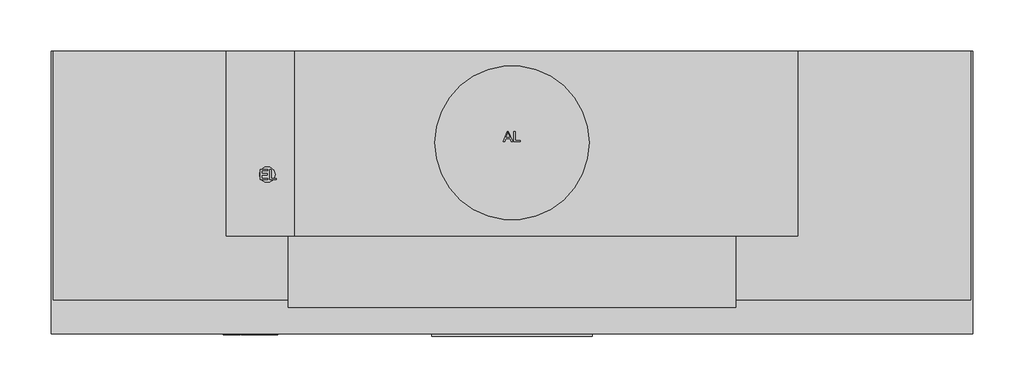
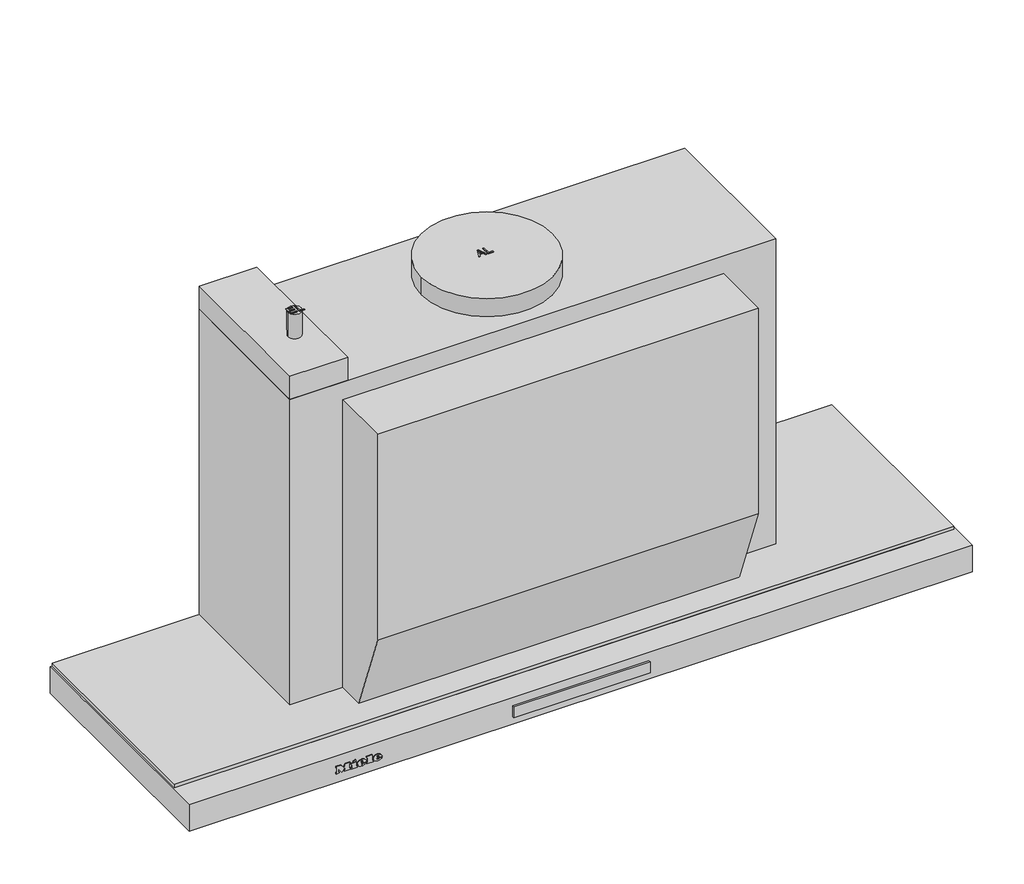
# Not in any storey: 1 proxy.
"""IFC4 building model written with IfcOpenShell, lengths in millimetres."""

import ifcopenshell
import ifcopenshell.guid

model = None  # the IFC model being written
_history = None  # IfcOwnerHistory: only IFC2X3 demands one
_inside = {}  # id of a spatial element -> (the spatial element, [elements in it])
_under = {}  # id of a project, library or spatial element -> (it, [spatial elements below it])
_declared = {}  # id of a project -> (the project, [libraries it declares])
_typed = {}  # id of a type object -> (the type object, [elements of that type])
_made_of = {}  # id of a material, layer set ... -> (it, [elements and type objects made of it])


def new_model(schema):
    """Start an empty IFC model of exactly this schema.

    Asked for "IFC4X3", IfcOpenShell would pick the latest addendum, in which some entities
    have other attributes; the version numbers below select the first issue.
    IFC2X3 requires an IfcOwnerHistory on every rooted entity: one is made here for all.
    """
    global model, _history
    if schema == "IFC4X3":
        model = ifcopenshell.file(schema_version=(4, 3, 0, 0))
    else:
        model = ifcopenshell.file(schema=schema)
    _inside.clear()
    _under.clear()
    _declared.clear()
    _typed.clear()
    _made_of.clear()
    _history = None
    if model.schema == "IFC2X3":
        org = make("IfcOrganization", Name="unknown")
        user = make(
            "IfcPersonAndOrganization",
            ThePerson=make("IfcPerson", FamilyName="unknown"),
            TheOrganization=org,
        )
        app = make(
            "IfcApplication",
            ApplicationDeveloper=org,
            Version="unknown",
            ApplicationFullName="unknown",
            ApplicationIdentifier="unknown",
        )
        _history = make(
            "IfcOwnerHistory",
            OwningUser=user,
            OwningApplication=app,
            ChangeAction="ADDED",
            CreationDate=0,
        )
    return model


def make(cls, **values):
    """One entity of the class cls with the attributes given. An attribute that is None is left unset."""
    return model.create_entity(
        cls, **{name: value for name, value in values.items() if value is not None}
    )


def rooted(cls, **values):
    """An entity with a GlobalId (a new one), such as an element, a storey or a relation."""
    return make(cls, GlobalId=ifcopenshell.guid.new(), OwnerHistory=_history, **values)


def si_unit(unit_type, name, prefix=None):
    """IfcSIUnit, for example si_unit("LENGTHUNIT", "METRE", prefix="MILLI")."""
    return make("IfcSIUnit", UnitType=unit_type, Prefix=prefix, Name=name)


def assignment(units):
    """IfcUnitAssignment: the units of a project."""
    return None if units is None else make("IfcUnitAssignment", Units=units)


def point(xyz):
    """IfcCartesianPoint."""
    return None if xyz is None else make("IfcCartesianPoint", Coordinates=xyz)


def direction(xyz):
    """IfcDirection."""
    return None if xyz is None else make("IfcDirection", DirectionRatios=xyz)


def frame(location, z_axis=None, x_axis=None):
    """IfcAxis2Placement3D, a coordinate frame: its origin and axes. An axis left out is left unset."""
    return make(
        "IfcAxis2Placement3D",
        Location=point(location),
        Axis=direction(z_axis),
        RefDirection=direction(x_axis),
    )


def frame_2d(location, x_axis=None):
    """IfcAxis2Placement2D, a coordinate frame in the plane: its origin and x axis."""
    return make(
        "IfcAxis2Placement2D", Location=point(location), RefDirection=direction(x_axis)
    )


def origin():
    """The frame at (0, 0, 0) with its axes left unset."""
    return frame((0.0, 0.0, 0.0))


def origin_with_axes():
    """The frame at (0, 0, 0) with the z axis (0, 0, 1) and the x axis (1, 0, 0) written out."""
    return frame((0.0, 0.0, 0.0), z_axis=(0.0, 0.0, 1.0), x_axis=(1.0, 0.0, 0.0))


def place(relative_to, where):
    """IfcLocalPlacement: puts the frame where relative to a parent placement (None: the world)."""
    return make(
        "IfcLocalPlacement", PlacementRelTo=relative_to, RelativePlacement=where
    )


def context(
    kind, dimensions, precision=None, world=None, true_north=None, identifier=None
):
    """IfcGeometricRepresentationContext, for example the 3D "Model" context."""
    return make(
        "IfcGeometricRepresentationContext",
        ContextIdentifier=identifier,
        ContextType=kind,
        CoordinateSpaceDimension=dimensions,
        Precision=precision,
        WorldCoordinateSystem=world,
        TrueNorth=true_north,
    )


def project(units=None, contexts=None):
    """IfcProject with its units and contexts."""
    return rooted(
        "IfcProject",
        Name="project",
        RepresentationContexts=contexts,
        UnitsInContext=assignment(units),
    )


def spatial(cls, under=None, at=None, **own):
    """A site, building, storey or space (cls), placed at a placement, below another one or the project."""
    s = rooted(cls, ObjectPlacement=at, **own)
    if under is not None:
        _under.setdefault(under.id(), (under, []))[1].append(s)
    return s


def polyline(points):
    """IfcPolyline through the points."""
    return make("IfcPolyline", Points=[point(p) for p in points])


def circle_curve(where, radius):
    """IfcCircle in the frame where."""
    return make("IfcCircle", Position=where, Radius=radius)


def ellipse_curve(where, semi_axis1, semi_axis2):
    """IfcEllipse in the frame where."""
    return make(
        "IfcEllipse", Position=where, SemiAxis1=semi_axis1, SemiAxis2=semi_axis2
    )


def trimmed(basis, trim1, trim2, sense, master):
    """IfcTrimmedCurve: the piece of a basis curve between two trims."""
    return make(
        "IfcTrimmedCurve",
        BasisCurve=basis,
        Trim1=trim1,
        Trim2=trim2,
        SenseAgreement=sense,
        MasterRepresentation=master,
    )


def segment(curve, same_sense, transition):
    """IfcCompositeCurveSegment."""
    return make(
        "IfcCompositeCurveSegment",
        Transition=transition,
        SameSense=same_sense,
        ParentCurve=curve,
    )


def composite_curve(segments, self_intersect=None):
    """IfcCompositeCurve: segments joined end to end."""
    return make("IfcCompositeCurve", Segments=segments, SelfIntersect=self_intersect)


def outline(outer, holes=None, kind="AREA"):
    """IfcArbitraryClosedProfileDef: a profile drawn as a closed curve; with holes, ...WithVoids."""
    if holes is None:
        return make("IfcArbitraryClosedProfileDef", ProfileType=kind, OuterCurve=outer)
    return make(
        "IfcArbitraryProfileDefWithVoids",
        ProfileType=kind,
        OuterCurve=outer,
        InnerCurves=holes,
    )


def extrude(swept, where, along, depth):
    """IfcExtrudedAreaSolid: the profile swept, set in the frame where, extruded along a direction by depth."""
    return make(
        "IfcExtrudedAreaSolid",
        SweptArea=swept,
        Position=where,
        ExtrudedDirection=direction(along),
        Depth=depth,
    )


def faces_of(points, faces, orient=None, outer=None):
    """IfcFace entities. A face is a list of loops; a loop is a list of indices into points, from 0.

    orient and outer hold one flag for each loop. By default every Orientation is true, the
    first loop of a face is its IfcFaceOuterBound and the others are IfcFaceBound.
    """
    made = []
    for i, loops in enumerate(faces):
        bounds = []
        for j, loop in enumerate(loops):
            is_outer = j == 0 if outer is None else outer[i][j]
            bounds.append(
                make(
                    "IfcFaceOuterBound" if is_outer else "IfcFaceBound",
                    Bound=make("IfcPolyLoop", Polygon=[points[k] for k in loop]),
                    Orientation=True if orient is None else orient[i][j],
                )
            )
        made.append(make("IfcFace", Bounds=bounds))
    return made


def faceted_brep(points, faces, orient=None, outer=None, voids=None):
    """IfcFacetedBrep: a solid bounded by flat faces; with voids (closed shells), ...WithVoids."""
    shared = [point(p) for p in points]
    hull = make("IfcClosedShell", CfsFaces=faces_of(shared, faces, orient, outer))
    if voids is None:
        return make("IfcFacetedBrep", Outer=hull)
    return make(
        "IfcFacetedBrepWithVoids",
        Outer=hull,
        Voids=[
            make(cls, CfsFaces=faces_of(shared, fs, o, b)) for cls, fs, o, b in voids
        ],
    )


def shape(context_of_items, identifier, shape_type, items):
    """IfcShapeRepresentation: the items that make up one representation, for example the "Body"."""
    return make(
        "IfcShapeRepresentation",
        ContextOfItems=context_of_items,
        RepresentationIdentifier=identifier,
        RepresentationType=shape_type,
        Items=items,
    )


def source(mapping_origin, context_of_items, identifier, shape_type, items):
    """IfcRepresentationMap: a shape defined once, which mapped items show again and again."""
    return make(
        "IfcRepresentationMap",
        MappingOrigin=mapping_origin,
        MappedRepresentation=shape(context_of_items, identifier, shape_type, items),
    )


def transform(
    local_origin,
    x_axis=None,
    y_axis=None,
    z_axis=None,
    scale=None,
    scale2=None,
    scale3=None,
    uniform=True,
):
    """IfcCartesianTransformationOperator3D, or its non-uniform kind. x_axis, y_axis, z_axis: its Axis1, 2, 3."""
    if uniform:
        return make(
            "IfcCartesianTransformationOperator3D",
            Axis1=direction(x_axis),
            Axis2=direction(y_axis),
            LocalOrigin=point(local_origin),
            Scale=scale,
            Axis3=direction(z_axis),
        )
    return make(
        "IfcCartesianTransformationOperator3DnonUniform",
        Axis1=direction(x_axis),
        Axis2=direction(y_axis),
        LocalOrigin=point(local_origin),
        Scale=scale,
        Axis3=direction(z_axis),
        Scale2=scale2,
        Scale3=scale3,
    )


def mapped(mapping_source, mapping_target):
    """IfcMappedItem: shows the shape of a source again, moved by a transform."""
    return make(
        "IfcMappedItem", MappingSource=mapping_source, MappingTarget=mapping_target
    )


def made_of(thing, what):
    """Note that an element or type object is made of a material, layer set ...; save() writes the relation."""
    if what is not None:
        _made_of.setdefault(what.id(), (what, []))[1].append(thing)
    return thing


def element(
    cls,
    number,
    at=None,
    inside=None,
    cuts=None,
    type_object=None,
    material=None,
    context=None,
    identifier="Body",
    shape_type=None,
    held_by="IfcProductDefinitionShape",
    body=None,
    shapes=None,
    **own,
):
    """One element of the class cls, such as IfcWall. Its Tag is "e" and its number.

    at: its placement. inside: the storey or other place that contains it. cuts: it is an
    opening in that element (IfcRelVoidsElement). A single representation is given by context,
    identifier, shape_type and body (its items); several are given by shapes. held_by: the class
    of the entity that holds the representations. save() writes the other relations.
    """
    e = rooted(cls, Tag="e%d" % number, ObjectPlacement=at, **own)
    if body is not None:
        shapes = [shape(context, identifier, shape_type, body)]
    if shapes is not None:
        e.Representation = make(held_by, Representations=shapes)
    if inside is not None:
        _inside.setdefault(inside.id(), (inside, []))[1].append(e)
    if cuts is not None:
        rooted(
            "IfcRelVoidsElement", RelatingBuildingElement=cuts, RelatedOpeningElement=e
        )
    if type_object is not None:
        _typed.setdefault(type_object.id(), (type_object, []))[1].append(e)
    return made_of(e, material)


def aggregate(whole, parts):
    """IfcRelAggregates: a whole, such as a stair, and the parts it consists of."""
    return rooted("IfcRelAggregates", RelatingObject=whole, RelatedObjects=parts)


def save(model, path):
    """Write the relations noted so far, then the file.

    IfcRelAggregates (storeys below a building ...), IfcRelContainedInSpatialStructure (elements
    in a storey), IfcRelDefinesByType, IfcRelAssociatesMaterial and IfcRelDeclares: one each for
    every whole, place, type object, material and project.
    """
    for whole, parts in _under.values():
        aggregate(whole, parts)
    for where, things in _inside.values():
        rooted(
            "IfcRelContainedInSpatialStructure",
            RelatedElements=things,
            RelatingStructure=where,
        )
    for kind, things in _typed.values():
        rooted("IfcRelDefinesByType", RelatedObjects=things, RelatingType=kind)
    for what, things in _made_of.values():
        rooted("IfcRelAssociatesMaterial", RelatedObjects=things, RelatingMaterial=what)
    for by, libraries in _declared.values():
        rooted("IfcRelDeclares", RelatingContext=by, RelatedDefinitions=libraries)
    model.write(path)


def plane_surface(at):
    """IfcPlane: the flat surface through the origin of the frame at, square to its z axis."""
    return make("IfcPlane", Position=at)


def cylinder_surface(at, radius):
    """IfcCylindricalSurface: all points at the distance radius from the z axis of the frame at."""
    return make("IfcCylindricalSurface", Position=at, Radius=radius)


def revolved_surface(curve, axis_point, axis_direction):
    """IfcSurfaceOfRevolution: the curve turned about the line through axis_point along axis_direction."""
    return make(
        "IfcSurfaceOfRevolution",
        SweptCurve=make("IfcArbitraryOpenProfileDef", ProfileType="CURVE", Curve=curve),
        AxisPosition=make("IfcAxis1Placement", Location=point(axis_point), Axis=direction(axis_direction)),
    )


def extruded_surface(curve, direction_of_extrusion, depth):
    """IfcSurfaceOfLinearExtrusion: the curve pushed along a direction by depth."""
    return make(
        "IfcSurfaceOfLinearExtrusion",
        SweptCurve=make("IfcArbitraryOpenProfileDef", ProfileType="CURVE", Curve=curve),
        ExtrudedDirection=direction(direction_of_extrusion),
        Depth=depth,
    )


def advanced_brep(points, edges, surfaces, faces):
    """IfcAdvancedBrep: a solid bounded by faces that lie on surfaces and meet in shared edges.

    An edge is (start, end): straight between two places in points (the first is 0);
    or (start, end, curve); or (start, end, curve, False) where it runs against its curve.
    A face is (place in surfaces, loops), or (place, loops, False) where it looks against
    its surface's normal. A loop lists edges by number (the first is 1), with a minus sign
    where the edge is run from its end to its start. The first loop is the outer one.
    """
    corners = [point(p) for p in points]
    vertices = [make("IfcVertexPoint", VertexGeometry=c) for c in corners]
    made = []
    for start, end, *more in edges:
        made.append(
            make(
                "IfcEdgeCurve",
                EdgeStart=vertices[start],
                EdgeEnd=vertices[end],
                EdgeGeometry=more[0] if more else make("IfcPolyline", Points=[corners[start], corners[end]]),
                SameSense=more[1] if len(more) > 1 else True,
            )
        )
    hull = []
    for where, loops, *sense in faces:
        bounds = []
        for j, loop in enumerate(loops):
            ring = [make("IfcOrientedEdge", EdgeElement=made[abs(k) - 1], Orientation=k > 0) for k in loop]
            bounds.append(
                make(
                    "IfcFaceOuterBound" if j == 0 else "IfcFaceBound",
                    Bound=make("IfcEdgeLoop", EdgeList=ring),
                    Orientation=True,
                )
            )
        hull.append(make("IfcAdvancedFace", Bounds=bounds, FaceSurface=surfaces[where], SameSense=sense[0] if sense else True))
    return make("IfcAdvancedBrep", Outer=make("IfcClosedShell", CfsFaces=hull))


def specialty_equipment_a7e02c89(model_context):
    return source(origin(), model_context, "Body", "SolidModel", [
        extrude(outline(polyline([(78.0, -275.0), (78.0, -277.3978707), (-78.0, -277.3978707), (-78.0, -275.0), (78.0, -275.0)])), frame((0.0, 0.0, -23.0389651), z_axis=(0.0, 0.0, 1.0), x_axis=(1.0, 0.0, 0.0)), (0.0, 0.0, 1.0), 13.3389155),
        advanced_brep(
        [(-233.4590019, -276.0, -18.7681017), (-233.4590019, -276.0, -17.8894017), (-227.6387019, -276.0, -17.8894017), (-237.7655019, -276.0, -17.8894017), (-235.3730019, -276.0, -20.8300017), (-227.7866019, -276.0, -18.7681017), (-230.4140019, -276.0, -18.7681017), (-232.4846019, -276.0, -19.7425017), (-233.4590019, -276.0, -16.7758017), (-233.4590019, -276.0, -15.8275017), (-231.9713019, -276.0, -15.8275017), (-231.9713019, -276.0, -16.7758017), (-233.4590019, -275.0, -18.7681017), (-232.4846019, -275.0, -19.7425017), (-230.4140019, -275.0, -18.7681017), (-227.7866019, -275.0, -18.7681017), (-235.3730019, -275.0, -20.8300017), (-237.7655019, -275.0, -17.8894017), (-227.6387019, -275.0, -17.8894017), (-233.4590019, -275.0, -17.8894017), (-233.4590019, -275.0, -16.7758017), (-231.9713019, -275.0, -16.7758017), (-231.9713019, -275.0, -15.8275017), (-233.4590019, -275.0, -15.8275017)],
        [
            (0, 1),
            (1, 2),
            (2, 3, ellipse_curve(frame((-232.7021019, -276.0, -17.8894017), z_axis=(0.0, -1.0, 0.0), x_axis=(-1.0, 0.0, 0.0)), 5.0634, 4.1847)),
            (3, 4, circle_curve(frame((-234.3985544, -276.0, -17.5936017), z_axis=(0.0, -1.0, 0.0), x_axis=(0.0, 0.0, -1.0)), 3.3799161)),
            (4, 5, circle_curve(frame((-232.8034638, -276.0, -15.2968017), z_axis=(0.0, -1.0, 0.0), x_axis=(0.0, 0.0, -1.0)), 6.1007236)),
            (5, 6),
            (6, 7, circle_curve(frame((-232.0593254, -276.0, -17.9590017), z_axis=(0.0, 1.0, 0.0), x_axis=(0.0, 0.0, -1.0)), 1.8335027)),
            (7, 0, circle_curve(frame((-232.4846019, -276.0, -18.7681017), z_axis=(0.0, 1.0, 0.0), x_axis=(0.0, 0.0, -1.0)), 0.9744)),
            (8, 9),
            (9, 10, circle_curve(frame((-232.7151519, -276.0, -15.8275017), z_axis=(0.0, 1.0, 0.0), x_axis=(0.0, 0.0, -1.0)), 0.74385)),
            (10, 11),
            (11, 8),
            (12, 13, circle_curve(frame((-232.4846019, -275.0, -18.7681017), z_axis=(0.0, -1.0, 0.0), x_axis=(0.0, 0.0, -1.0)), 0.9744)),
            (13, 14, circle_curve(frame((-232.0593254, -275.0, -17.9590017), z_axis=(0.0, -1.0, 0.0), x_axis=(0.0, 0.0, -1.0)), 1.8335027)),
            (14, 15),
            (15, 16, circle_curve(frame((-232.8034638, -275.0, -15.2968017), z_axis=(0.0, 1.0, 0.0), x_axis=(0.0, 0.0, -1.0)), 6.1007236)),
            (16, 17, circle_curve(frame((-234.3985544, -275.0, -17.5936017), z_axis=(0.0, 1.0, 0.0), x_axis=(0.0, 0.0, -1.0)), 3.3799161)),
            (17, 18, ellipse_curve(frame((-232.7021019, -275.0, -17.8894017), z_axis=(0.0, 1.0, 0.0), x_axis=(-1.0, 0.0, 0.0)), 5.0634, 4.1847)),
            (18, 19),
            (19, 12),
            (20, 21),
            (21, 22),
            (22, 23, circle_curve(frame((-232.7151519, -275.0, -15.8275017), z_axis=(0.0, -1.0, 0.0), x_axis=(0.0, 0.0, -1.0)), 0.74385)),
            (23, 20),
            (0, 12),
            (19, 1),
            (18, 2),
            (5, 15),
            (14, 6),
            (17, 3),
            (13, 7),
            (16, 4),
            (8, 20),
            (23, 9),
            (22, 10),
            (21, 11),
        ],
        [
            plane_surface(frame((-233.4590019, -276.0, -17.8894017), z_axis=(0.0, -1.0, 0.0), x_axis=(0.0, 0.0, 1.0))),
            plane_surface(frame((-233.4590019, -275.0, -17.8894017), z_axis=(0.0, 1.0, 0.0), x_axis=(0.0, 0.0, -1.0))),
            plane_surface(frame((-233.4590019, -276.0, -18.7681017), z_axis=(1.0, 0.0, 0.0), x_axis=(0.0, 1.0, 0.0))),
            plane_surface(frame((-233.4590019, -276.0, -17.8894017), z_axis=(0.0, 0.0, -1.0), x_axis=(0.0, 1.0, 0.0))),
            plane_surface(frame((-227.7866019, -276.0, -18.7681017), z_axis=(0.0, 0.0, 1.0), x_axis=(0.0, 1.0, 0.0))),
            extruded_surface(trimmed(ellipse_curve(frame((-232.7021019, -274.0, -17.8894017), z_axis=(0.0, -1.0, 0.0), x_axis=(-1.0, 0.0, 0.0)), 5.0634, 4.1847), [point((-227.6387019, -274.0, -17.8894017))], [point((-237.7655019, -274.0, -17.8894017))], True, "CARTESIAN"), (0.0, -1.0, 0.0), 1.0),
            revolved_surface(polyline([(-232.0593254, -275.0, -19.792504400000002), (-232.0593254, -276.0, -19.792504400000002)]), (-232.0593254, -275.0, -17.9590017), (0.0, 1.0, 0.0)),
            revolved_surface(polyline([(-232.4846019, -275.0, -19.7425017), (-232.4846019, -276.0, -19.7425017)]), (-232.4846019, -275.0, -18.7681017), (0.0, 1.0, 0.0)),
            cylinder_surface(frame((-234.3985544, -275.0, -17.5936017), z_axis=(0.0, -1.0, 0.0), x_axis=(0.0, 0.0, -1.0)), 3.3799161),
            cylinder_surface(frame((-232.8034638, -275.0, -15.2968017), z_axis=(0.0, -1.0, 0.0), x_axis=(0.0, 0.0, -1.0)), 6.1007236),
            plane_surface(frame((-233.4590019, -276.0, -16.7758017), z_axis=(1.0, 0.0, 0.0), x_axis=(0.0, 1.0, 0.0))),
            revolved_surface(polyline([(-232.7151519, -275.0, -16.571351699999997), (-232.7151519, -276.0, -16.571351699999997)]), (-232.7151519, -275.0, -15.8275017), (0.0, 1.0, 0.0)),
            plane_surface(frame((-231.9713019, -276.0, -15.8275017), z_axis=(-1.0, 0.0, 0.0), x_axis=(0.0, 1.0, 0.0))),
            plane_surface(frame((-231.9713019, -276.0, -16.7758017), z_axis=(0.0, 0.0, 1.0), x_axis=(0.0, 1.0, 0.0))),
        ],
        [
            (0, [[1, 2, 3, 4, 5, 6, 7, 8], [9, 10, 11, 12]]),
            (1, [[13, 14, 15, 16, 17, 18, 19, 20], [21, 22, 23, 24]]),
            (2, [[-1, 25, -20, 26]]),
            (3, [[-2, -26, -19, 27]]),
            (4, [[-6, 28, -15, 29]]),
            (5, [[-3, -27, -18, 30]]),
            (6, [[-7, -29, -14, 31]]),
            (7, [[-8, -31, -13, -25]]),
            (8, [[-4, -30, -17, 32]]),
            (9, [[-5, -32, -16, -28]]),
            (10, [[-9, 33, -24, 34]]),
            (11, [[-10, -34, -23, 35]]),
            (12, [[-11, -35, -22, 36]]),
            (13, [[-12, -36, -21, -33]]),
        ],
    ),
        advanced_brep(
        [(-251.6159019, -276.0, -18.7681017), (-251.6159019, -276.0, -17.8894017), (-245.7956019, -276.0, -17.8894017), (-255.9224019, -276.0, -17.8894017), (-253.5299019, -276.0, -20.8300017), (-245.9435019, -276.0, -18.7681017), (-248.5709019, -276.0, -18.7681017), (-250.6415019, -276.0, -19.7425017), (-251.6159019, -276.0, -16.7758017), (-251.6159019, -276.0, -15.8275017), (-250.1282019, -276.0, -15.8275017), (-250.1282019, -276.0, -16.7758017), (-251.6159019, -275.0, -18.7681017), (-250.6415019, -275.0, -19.7425017), (-248.5709019, -275.0, -18.7681017), (-245.9435019, -275.0, -18.7681017), (-253.5299019, -275.0, -20.8300017), (-255.9224019, -275.0, -17.8894017), (-245.7956019, -275.0, -17.8894017), (-251.6159019, -275.0, -17.8894017), (-251.6159019, -275.0, -16.7758017), (-250.1282019, -275.0, -16.7758017), (-250.1282019, -275.0, -15.8275017), (-251.6159019, -275.0, -15.8275017)],
        [
            (0, 1),
            (1, 2),
            (2, 3, ellipse_curve(frame((-250.8590019, -276.0, -17.8894017), z_axis=(0.0, -1.0, 0.0), x_axis=(-1.0, 0.0, 0.0)), 5.0634, 4.1847)),
            (3, 4, circle_curve(frame((-252.5554544, -276.0, -17.5936017), z_axis=(0.0, -1.0, 0.0), x_axis=(0.0, 0.0, -1.0)), 3.3799161)),
            (4, 5, circle_curve(frame((-250.9603638, -276.0, -15.2968017), z_axis=(0.0, -1.0, 0.0), x_axis=(0.0, 0.0, -1.0)), 6.1007236)),
            (5, 6),
            (6, 7, circle_curve(frame((-250.2162254, -276.0, -17.9590017), z_axis=(0.0, 1.0, 0.0), x_axis=(0.0, 0.0, -1.0)), 1.8335027)),
            (7, 0, circle_curve(frame((-250.6415019, -276.0, -18.7681017), z_axis=(0.0, 1.0, 0.0), x_axis=(0.0, 0.0, -1.0)), 0.9744)),
            (8, 9),
            (9, 10, circle_curve(frame((-250.8720519, -276.0, -15.8275017), z_axis=(0.0, 1.0, 0.0), x_axis=(0.0, 0.0, -1.0)), 0.74385)),
            (10, 11),
            (11, 8),
            (12, 13, circle_curve(frame((-250.6415019, -275.0, -18.7681017), z_axis=(0.0, -1.0, 0.0), x_axis=(0.0, 0.0, -1.0)), 0.9744)),
            (13, 14, circle_curve(frame((-250.2162254, -275.0, -17.9590017), z_axis=(0.0, -1.0, 0.0), x_axis=(0.0, 0.0, -1.0)), 1.8335027)),
            (14, 15),
            (15, 16, circle_curve(frame((-250.9603638, -275.0, -15.2968017), z_axis=(0.0, 1.0, 0.0), x_axis=(0.0, 0.0, -1.0)), 6.1007236)),
            (16, 17, circle_curve(frame((-252.5554544, -275.0, -17.5936017), z_axis=(0.0, 1.0, 0.0), x_axis=(0.0, 0.0, -1.0)), 3.3799161)),
            (17, 18, ellipse_curve(frame((-250.8590019, -275.0, -17.8894017), z_axis=(0.0, 1.0, 0.0), x_axis=(-1.0, 0.0, 0.0)), 5.0634, 4.1847)),
            (18, 19),
            (19, 12),
            (20, 21),
            (21, 22),
            (22, 23, circle_curve(frame((-250.8720519, -275.0, -15.8275017), z_axis=(0.0, -1.0, 0.0), x_axis=(0.0, 0.0, -1.0)), 0.74385)),
            (23, 20),
            (0, 12),
            (19, 1),
            (18, 2),
            (5, 15),
            (14, 6),
            (17, 3),
            (13, 7),
            (16, 4),
            (8, 20),
            (23, 9),
            (22, 10),
            (21, 11),
        ],
        [
            plane_surface(frame((-251.6159019, -276.0, -17.8894017), z_axis=(0.0, -1.0, 0.0), x_axis=(0.0, 0.0, 1.0))),
            plane_surface(frame((-251.6159019, -275.0, -17.8894017), z_axis=(0.0, 1.0, 0.0), x_axis=(0.0, 0.0, -1.0))),
            plane_surface(frame((-251.6159019, -276.0, -18.7681017), z_axis=(1.0, 0.0, 0.0), x_axis=(0.0, 1.0, 0.0))),
            plane_surface(frame((-251.6159019, -276.0, -17.8894017), z_axis=(0.0, 0.0, -1.0), x_axis=(0.0, 1.0, 0.0))),
            plane_surface(frame((-245.9435019, -276.0, -18.7681017), z_axis=(0.0, 0.0, 1.0), x_axis=(0.0, 1.0, 0.0))),
            extruded_surface(trimmed(ellipse_curve(frame((-250.8590019, -274.0, -17.8894017), z_axis=(0.0, -1.0, 0.0), x_axis=(-1.0, 0.0, 0.0)), 5.0634, 4.1847), [point((-245.7956019, -274.0, -17.8894017))], [point((-255.9224019, -274.0, -17.8894017))], True, "CARTESIAN"), (0.0, -1.0, 0.0), 1.0),
            revolved_surface(polyline([(-250.2162254, -275.0, -19.792504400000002), (-250.2162254, -276.0, -19.792504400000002)]), (-250.2162254, -275.0, -17.9590017), (0.0, 1.0, 0.0)),
            revolved_surface(polyline([(-250.6415019, -275.0, -19.7425017), (-250.6415019, -276.0, -19.7425017)]), (-250.6415019, -275.0, -18.7681017), (0.0, 1.0, 0.0)),
            cylinder_surface(frame((-252.5554544, -275.0, -17.5936017), z_axis=(0.0, -1.0, 0.0), x_axis=(0.0, 0.0, -1.0)), 3.3799161),
            cylinder_surface(frame((-250.9603638, -275.0, -15.2968017), z_axis=(0.0, -1.0, 0.0), x_axis=(0.0, 0.0, -1.0)), 6.1007236),
            plane_surface(frame((-251.6159019, -276.0, -16.7758017), z_axis=(1.0, 0.0, 0.0), x_axis=(0.0, 1.0, 0.0))),
            revolved_surface(polyline([(-250.8720519, -275.0, -16.571351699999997), (-250.8720519, -276.0, -16.571351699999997)]), (-250.8720519, -275.0, -15.8275017), (0.0, 1.0, 0.0)),
            plane_surface(frame((-250.1282019, -276.0, -15.8275017), z_axis=(-1.0, 0.0, 0.0), x_axis=(0.0, 1.0, 0.0))),
            plane_surface(frame((-250.1282019, -276.0, -16.7758017), z_axis=(0.0, 0.0, 1.0), x_axis=(0.0, 1.0, 0.0))),
        ],
        [
            (0, [[1, 2, 3, 4, 5, 6, 7, 8], [9, 10, 11, 12]]),
            (1, [[13, 14, 15, 16, 17, 18, 19, 20], [21, 22, 23, 24]]),
            (2, [[-1, 25, -20, 26]]),
            (3, [[-2, -26, -19, 27]]),
            (4, [[-6, 28, -15, 29]]),
            (5, [[-3, -27, -18, 30]]),
            (6, [[-7, -29, -14, 31]]),
            (7, [[-8, -31, -13, -25]]),
            (8, [[-4, -30, -17, 32]]),
            (9, [[-5, -32, -16, -28]]),
            (10, [[-9, 33, -24, 34]]),
            (11, [[-10, -34, -23, 35]]),
            (12, [[-11, -35, -22, 36]]),
            (13, [[-12, -36, -21, -33]]),
        ],
    ),
        extrude(outline(polyline([(-12.6433017, -261.1250019), (-14.0527017, -260.4638019), (-12.6781017, -257.5145019), (-11.2687017, -258.1670019), (-12.6433017, -261.1250019)])), frame((0.0, -276.0, 0.0), z_axis=(0.0, 1.0, 0.0), x_axis=(0.0, 0.0, 1.0)), (0.0, 0.0, 1.0), 1.0),
        extrude(outline(polyline([(-14.2441017, -263.2739019), (-15.8014017, -263.2739019), (-15.8014017, -262.2386019), (-19.3684017, -262.2386019), (-19.3684017, -263.2739019), (-20.8300017, -263.2739019), (-20.8300017, -256.4096019), (-19.3684017, -256.4096019), (-19.3684017, -257.4188019), (-14.2441017, -257.4188019), (-14.2441017, -263.2739019)])), frame((0.0, -276.0, 0.0), z_axis=(0.0, 1.0, 0.0), x_axis=(0.0, 0.0, 1.0)), (0.0, 0.0, 1.0), 1.0),
        extrude(outline(polyline([(-13.5481017, -245.3084019), (-13.5481017, -244.2644019), (-19.3684017, -244.2644019), (-19.3684017, -245.3084019), (-20.8300017, -245.3084019), (-20.8300017, -238.2527019), (-19.3684017, -238.2527019), (-19.3684017, -239.3228019), (-12.1300017, -239.3228019), (-12.1300017, -245.3084019), (-13.5481017, -245.3084019)])), frame((0.0, -276.0, 0.0), z_axis=(0.0, 1.0, 0.0), x_axis=(0.0, 0.0, 1.0)), (0.0, 0.0, 1.0), 1.0),
        extrude(outline(polyline([(-13.5481017, -280.6130019), (-13.5481017, -279.5603019), (-19.3684017, -279.5603019), (-19.3684017, -280.6130019), (-20.8300017, -280.6130019), (-20.8300017, -276.7850019), (-19.3684017, -276.7850019), (-19.3684017, -277.8290019), (-15.6719769, -277.8290019), (-20.8300017, -273.9401019), (-15.5772794, -270.0338019), (-19.3684017, -270.0338019), (-19.3684017, -271.1039019), (-20.8300017, -271.1039019), (-20.8300017, -264.1613019), (-19.3684017, -264.1613019), (-19.3684017, -265.2662019), (-13.5481017, -265.2662019), (-13.5481017, -264.1613019), (-12.1300017, -264.1613019), (-12.1300017, -269.4596019), (-15.3925017, -272.0000019), (-12.1300017, -274.5491019), (-12.1300017, -280.6130019), (-13.5481017, -280.6130019)])), frame((0.0, -276.0, 0.0), z_axis=(0.0, 1.0, 0.0), x_axis=(0.0, 0.0, 1.0)), (0.0, 0.0, 1.0), 1.0),
        extrude(outline(polyline([(278.0, -180.0), (-278.0, -180.0), (-278.0, 0.0), (278.0, 0.0), (278.0, -180.0)])), frame((0.0, 0.0, 4.0), z_axis=(0.0, 0.0, 1.0), x_axis=(1.0, 0.0, 0.0)), (0.0, 0.0, 1.0), 369.0),
        extrude(outline(composite_curve([segment(trimmed(circle_curve(frame_2d((0.0, -89.0)), 75.0), [point((-75.0, -89.0))], [point((75.0, -89.0))], False, "CARTESIAN"), True, "CONTINUOUS"), segment(trimmed(circle_curve(frame_2d((0.0, -89.0)), 75.0), [point((75.0, -89.0))], [point((-75.0, -89.0))], False, "CARTESIAN"), True, "CONTINUOUS")], self_intersect=False)), frame((0.0, 0.0, 373.0), z_axis=(0.0, 0.0, 1.0), x_axis=(1.0, 0.0, 0.0)), (0.0, 0.0, 1.0), 22.0),
        extrude(outline(polyline([(-278.0, -180.0), (-278.0, 0.0), (-212.0, 0.0), (-212.0, -180.0), (-278.0, -180.0)])), frame((0.0, 0.0, 373.0), z_axis=(0.0, 0.0, 1.0), x_axis=(1.0, 0.0, 0.0)), (0.0, 0.0, 1.0), 28.0),
        extrude(outline(polyline([(-180.0, 352.0), (-180.0, 4.0), (-211.7966838, 4.0), (-249.5, 103.2192532), (-249.5, 352.0), (-180.0, 352.0)])), frame((-217.7156244, 0.0, 0.0), z_axis=(1.0, 0.0, 0.0), x_axis=(0.0, 1.0, 0.0)), (0.0, 0.0, 1.0), 435.4312488),
        extrude(outline(polyline([(-8.547125, -87.975609), (-4.5372113, -77.929978), (-3.4679009, -77.929978), (0.5420128, -87.975609), (-0.7848149, -87.975609), (-1.9350593, -84.8363493), (-6.0725055, -84.8363493), (-7.2202973, -87.975609), (-8.547125, -87.975609)]), holes=[polyline([(-5.6114267, -83.5806455), (-2.3936855, -83.5806455), (-3.2986752, -81.110931), (-4.0025561, -79.1856819), (-4.6279555, -80.8951069), (-5.6114267, -83.5806455)])]), frame((0.0, 0.0, 395.0), z_axis=(0.0, 0.0, 1.0), x_axis=(1.0, 0.0, 0.0)), (0.0, 0.0, 1.0), 1.0),
        extrude(outline(polyline([(1.8835558, -87.975609), (1.8835558, -77.929978), (3.1392597, -77.929978), (3.1392597, -86.7199052), (8.1620752, -86.7199052), (8.1620752, -87.975609), (1.8835558, -87.975609)])), frame((0.0, 0.0, 395.0), z_axis=(0.0, 0.0, 1.0), x_axis=(1.0, 0.0, 0.0)), (0.0, 0.0, 1.0), 1.0),
        extrude(outline(polyline([(446.0, 0.0), (446.0, -242.0), (-446.0, -242.0), (-446.0, 0.0), (446.0, 0.0)])), origin_with_axes(), (0.0, 0.0, 1.0), 4.0),
        extrude(outline(polyline([(120.0, -19.25), (120.0, -31.75), (-120.0, -31.75), (-120.0, -19.25), (120.0, -19.25)])), frame((0.0, 0.0, -23.0), z_axis=(0.0, 0.0, 1.0), x_axis=(1.0, 0.0, 0.0)), (0.0, 0.0, 1.0), 1.785426),
        extrude(outline(polyline([(331.0813184, -268.0), (331.0813184, -246.0), (399.0, -246.0), (399.0, -268.0), (331.0813184, -268.0)])), frame((0.0, 0.0, -33.3019181), z_axis=(0.0, 0.0, 1.0), x_axis=(1.0, 0.0, 0.0)), (0.0, 0.0, 1.0), 1.3019181),
        extrude(outline(polyline([(-399.0, -268.0), (-399.0, -246.0), (-331.0, -246.0), (-331.0, -268.0), (-399.0, -268.0)])), frame((0.0, 0.0, -33.3019181), z_axis=(0.0, 0.0, 1.0), x_axis=(1.0, 0.0, 0.0)), (0.0, 0.0, 1.0), 1.3019181),
        extrude(outline(composite_curve([segment(trimmed(circle_curve(frame_2d((-238.0, -120.0)), 7.5), [point((-230.5, -120.0))], [point((-245.5, -120.0))], False, "CARTESIAN"), True, "CONTINUOUS"), segment(trimmed(circle_curve(frame_2d((-238.0, -120.0)), 7.5), [point((-245.5, -120.0))], [point((-230.5, -120.0))], False, "CARTESIAN"), True, "CONTINUOUS")], self_intersect=False)), frame((0.0, 0.0, 401.0), z_axis=(0.0, 0.0, 1.0), x_axis=(1.0, 0.0, 0.0)), (0.0, 0.0, 1.0), 30.0),
        extrude(outline(polyline([(-235.640443, -124.9184735), (-235.640443, -114.8728425), (-234.3847391, -114.8728425), (-234.3847391, -123.6627696), (-229.3619236, -123.6627696), (-229.3619236, -124.9184735), (-235.640443, -124.9184735)])), frame((0.0, 0.0, 431.0), z_axis=(0.0, 0.0, 1.0), x_axis=(1.0, 0.0, 0.0)), (0.0, 0.0, 1.0), 1.0),
        extrude(outline(polyline([(-244.9012591, -124.9184735), (-244.9012591, -114.8728425), (-237.6809618, -114.8728425), (-237.6809618, -116.1285464), (-243.6455552, -116.1285464), (-243.6455552, -119.1108431), (-237.9948878, -119.1108431), (-237.9948878, -120.366547), (-243.6455552, -120.366547), (-243.6455552, -123.6627696), (-237.5239988, -123.6627696), (-237.5239988, -124.9184735), (-244.9012591, -124.9184735)])), frame((0.0, 0.0, 431.0), z_axis=(0.0, 0.0, 1.0), x_axis=(1.0, 0.0, 0.0)), (0.0, 0.0, 1.0), 1.0),
        extrude(outline(polyline([(-448.0, 0.0), (-413.0, 0.0), (-413.0, -242.0), (413.0, -242.0), (413.0, 0.0), (448.0, 0.0), (448.0, -275.0), (-448.0, -275.0), (-448.0, 0.0)])), frame((0.0, 0.0, -32.0), z_axis=(0.0, 0.0, 1.0), x_axis=(1.0, 0.0, 0.0)), (0.0, 0.0, 1.0), 32.0),
        faceted_brep([(-126.0, -39.0, -24.0), (-126.0, -39.0, 0.0), (126.0, -39.0, 0.0), (126.0, -39.0, -24.0), (-126.0, -12.0, -24.0), (-126.0, -12.0, 0.0), (126.0, -12.0, -24.0), (126.0, -12.0, 0.0), (-413.0, -242.0, 0.0), (-413.0, 0.0, 0.0), (-413.0, 0.0, -24.0), (-413.0, -52.0, -24.0), (-413.0, -52.0, -25.0), (-413.0, -242.0, -25.0), (413.0, -52.0, -25.0), (413.0, -242.0, -25.0), (413.0, -52.0, -24.0), (413.0, 0.0, -24.0), (413.0, 0.0, 0.0), (413.0, -242.0, 0.0)], [[[0, 1, 2, 3]], [[4, 5, 1, 0]], [[6, 7, 5, 4]], [[8, 9, 10, 11, 12, 13]], [[13, 12, 14, 15]], [[16, 11, 10, 17], [6, 4, 0, 3]], [[11, 16, 14, 12]], [[18, 9, 8, 19], [5, 7, 2, 1]], [[9, 18, 17, 10]], [[19, 8, 13, 15]], [[18, 19, 15, 14, 16, 17]], [[7, 6, 3, 2]]]),
        extrude(outline(polyline([(126.0, -12.0), (126.0, -39.0), (-126.0, -39.0), (-126.0, -12.0), (126.0, -12.0)]), holes=[polyline([(120.0, -19.25), (-120.0, -19.25), (-120.0, -31.75), (120.0, -31.75), (120.0, -19.25)])]), frame((0.0, 0.0, -21.214574), z_axis=(0.0, 0.0, 1.0), x_axis=(1.0, 0.0, 0.0)), (0.0, 0.0, 1.0), 21.214574),
    ])


model = new_model("IFC4")

# Units and contexts
model_context = context("Model", 3, world=origin())
ifc_project = project(units=[si_unit("LENGTHUNIT", "METRE", prefix="MILLI")], contexts=[model_context])

# Site, building
site = spatial("IfcSite", under=ifc_project)
building = spatial("IfcBuilding", under=site)

# Proxy
placement = place(None, origin())
specialty_equipment_shape = specialty_equipment_a7e02c89(model_context)
element("IfcBuildingElementProxy", 1, Name="11878420_PAC_DAS4920_EDST : 28S4920S_PAC_11878420_DAS4920_EDST", ObjectType="11878420_PAC_DAS4920_EDST : 28S4920S_PAC_11878420_DAS4920_EDST", at=placement, inside=building, context=model_context, shape_type="MappedRepresentation", body=[
    mapped(specialty_equipment_shape, transform((0.0, 0.0, 0.0), x_axis=(1.0, 0.0, 0.0), y_axis=(0.0, 1.0, 0.0), z_axis=(0.0, 0.0, 1.0))),
])

save(model, "model.ifc")
